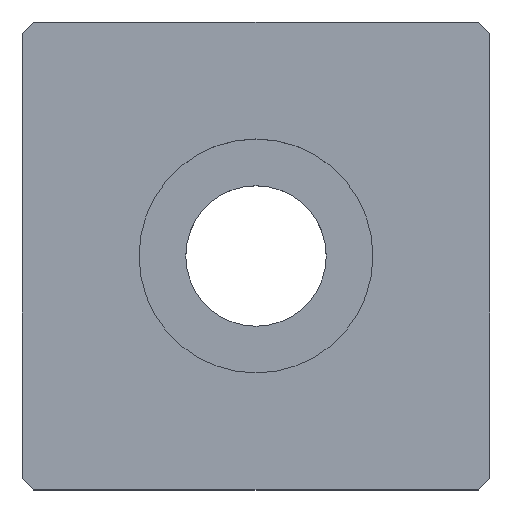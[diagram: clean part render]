
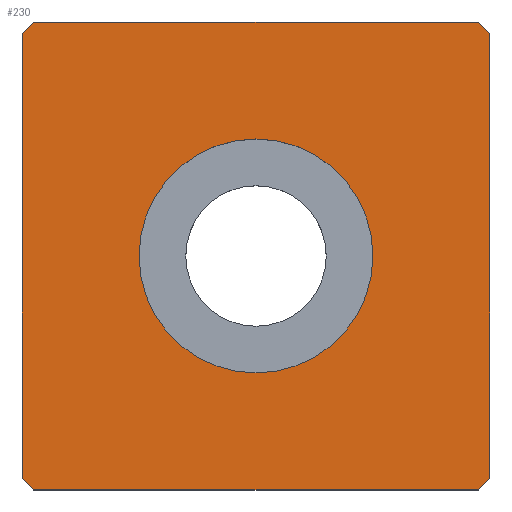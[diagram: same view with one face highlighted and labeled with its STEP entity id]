
A CAD part, top view. The second image highlights one B-rep face of the part: STEP entity #230.
In plain terms, the highlighted planar face has unit normal (0, 0, 1).
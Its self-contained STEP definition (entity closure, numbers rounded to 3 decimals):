
#16=FACE_BOUND('',#48,.T.);
#21=PLANE('',#260);
#33=FACE_OUTER_BOUND('',#47,.T.);
#47=EDGE_LOOP('',(#178,#179,#180,#181,#182,#183,#184,#185));
#48=EDGE_LOOP('',(#186));
#59=LINE('',#345,#85);
#63=LINE('',#353,#89);
#66=LINE('',#359,#92);
#67=LINE('',#361,#93);
#68=LINE('',#363,#94);
#69=LINE('',#365,#95);
#70=LINE('',#367,#96);
#71=LINE('',#368,#97);
#85=VECTOR('',#285,10.);
#89=VECTOR('',#291,10.);
#92=VECTOR('',#296,10.);
#93=VECTOR('',#297,10.);
#94=VECTOR('',#298,10.);
#95=VECTOR('',#299,10.);
#96=VECTOR('',#300,10.);
#97=VECTOR('',#301,10.);
#110=CIRCLE('',#254,5.);
#114=VERTEX_POINT('',#334);
#117=VERTEX_POINT('',#343);
#118=VERTEX_POINT('',#344);
#121=VERTEX_POINT('',#352);
#123=VERTEX_POINT('',#358);
#124=VERTEX_POINT('',#360);
#125=VERTEX_POINT('',#362);
#126=VERTEX_POINT('',#364);
#127=VERTEX_POINT('',#366);
#134=EDGE_CURVE('',#114,#114,#110,.T.);
#138=EDGE_CURVE('',#117,#118,#59,.T.);
#142=EDGE_CURVE('',#121,#118,#63,.T.);
#145=EDGE_CURVE('',#117,#123,#66,.T.);
#146=EDGE_CURVE('',#124,#123,#67,.T.);
#147=EDGE_CURVE('',#124,#125,#68,.T.);
#148=EDGE_CURVE('',#126,#125,#69,.T.);
#149=EDGE_CURVE('',#126,#127,#70,.T.);
#150=EDGE_CURVE('',#121,#127,#71,.T.);
#178=ORIENTED_EDGE('',*,*,#138,.F.);
#179=ORIENTED_EDGE('',*,*,#145,.T.);
#180=ORIENTED_EDGE('',*,*,#146,.F.);
#181=ORIENTED_EDGE('',*,*,#147,.T.);
#182=ORIENTED_EDGE('',*,*,#148,.F.);
#183=ORIENTED_EDGE('',*,*,#149,.T.);
#184=ORIENTED_EDGE('',*,*,#150,.F.);
#185=ORIENTED_EDGE('',*,*,#142,.T.);
#186=ORIENTED_EDGE('',*,*,#134,.T.);
#230=ADVANCED_FACE('',(#33,#16),#21,.T.);
#254=AXIS2_PLACEMENT_3D('',#335,#274,#275);
#260=AXIS2_PLACEMENT_3D('',#357,#294,#295);
#274=DIRECTION('center_axis',(0.,0.,-1.));
#275=DIRECTION('ref_axis',(-1.,0.,0.));
#285=DIRECTION('',(-0.707,-0.707,0.));
#291=DIRECTION('',(1.,0.,0.));
#294=DIRECTION('center_axis',(0.,0.,1.));
#295=DIRECTION('ref_axis',(1.,0.,0.));
#296=DIRECTION('',(0.,1.,0.));
#297=DIRECTION('',(0.707,-0.707,0.));
#298=DIRECTION('',(-1.,0.,0.));
#299=DIRECTION('',(0.707,0.707,0.));
#300=DIRECTION('',(0.,-1.,0.));
#301=DIRECTION('',(-0.707,0.707,0.));
#334=CARTESIAN_POINT('',(5.,0.,3.));
#335=CARTESIAN_POINT('Origin',(0.,0.,3.));
#343=CARTESIAN_POINT('',(10.,-9.5,3.));
#344=CARTESIAN_POINT('',(9.5,-10.,3.));
#345=CARTESIAN_POINT('',(9.75,-9.75,3.));
#352=CARTESIAN_POINT('',(-9.5,-10.,3.));
#353=CARTESIAN_POINT('',(10.,-10.,3.));
#357=CARTESIAN_POINT('Origin',(0.,0.,3.));
#358=CARTESIAN_POINT('',(10.,9.5,3.));
#359=CARTESIAN_POINT('',(10.,10.,3.));
#360=CARTESIAN_POINT('',(9.5,10.,3.));
#361=CARTESIAN_POINT('',(9.75,9.75,3.));
#362=CARTESIAN_POINT('',(-9.5,10.,3.));
#363=CARTESIAN_POINT('',(-10.,10.,3.));
#364=CARTESIAN_POINT('',(-10.,9.5,3.));
#365=CARTESIAN_POINT('',(-9.75,9.75,3.));
#366=CARTESIAN_POINT('',(-10.,-9.5,3.));
#367=CARTESIAN_POINT('',(-10.,-10.,3.));
#368=CARTESIAN_POINT('',(-9.75,-9.75,3.));
